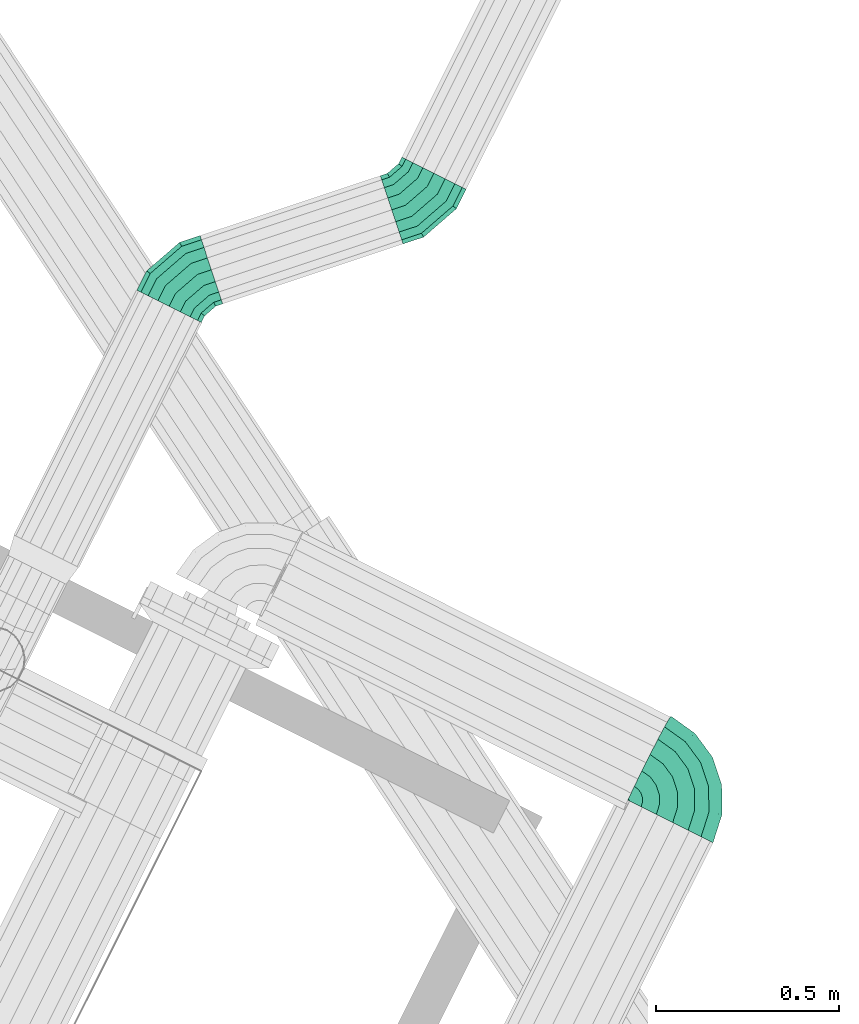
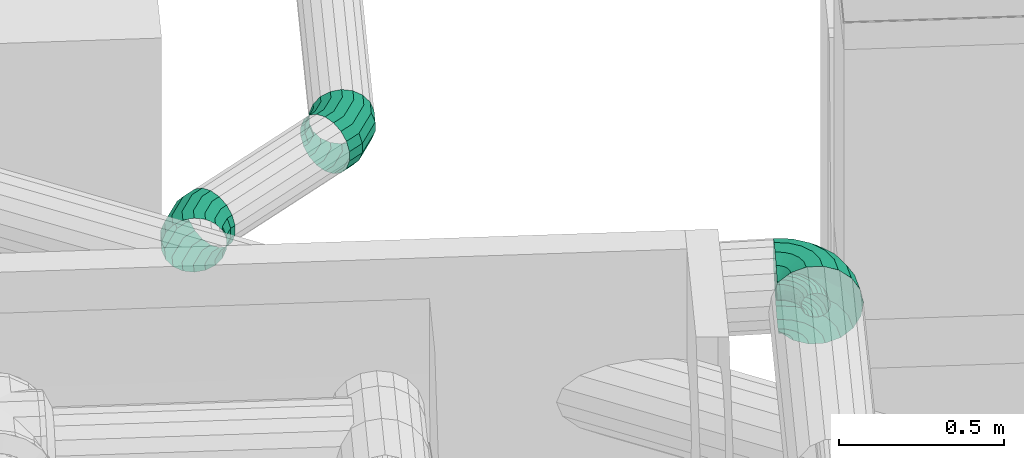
# One storey, part 162 of 206: 2 flow fittings, 1 flow segment.
"""IFC2X3 building model written with IfcOpenShell, lengths in metres."""

from ifc_helpers import new_model, si_unit, derived_unit, direction, frame, origin, place, context, subcontext, project, spatial, face_set, surface_model, source, transform, mapped, material, type_object, type_shapes, element, save


model = new_model("IFC2X3")

# Units and contexts
model_context = context("Model", 3, precision=5.2338327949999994e-05, world=origin(), true_north=direction((0.0, 1.0)))
body_context = subcontext(model_context, "Body", "Model", "MODEL_VIEW")
ifc_project = project(units=[si_unit("LENGTHUNIT", "METRE"), si_unit("AREAUNIT", "SQUARE_METRE"), si_unit("VOLUMEUNIT", "CUBIC_METRE"), si_unit("MASSUNIT", "GRAM", prefix="KILO"), si_unit("PLANEANGLEUNIT", "RADIAN"), derived_unit("THERMALTRANSMITTANCEUNIT", [(si_unit("MASSUNIT", "GRAM", prefix="KILO"), 1), (si_unit("THERMODYNAMICTEMPERATUREUNIT", "KELVIN"), -1), (si_unit("TIMEUNIT", "SECOND"), -3)])], contexts=[model_context])

# Site, building, storey
site_placement = place(None, frame((0.0, 0.0, 0.0), z_axis=(0.0, 0.0, 1.0), x_axis=(0.8939966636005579, -0.4480736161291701, 0.0)))
site = spatial("IfcSite", under=ifc_project, at=site_placement, Name="Default", CompositionType="ELEMENT")
building_placement = place(site_placement, origin())
building = spatial("IfcBuilding", under=site, at=building_placement, CompositionType="ELEMENT")
storey_placement = place(building_placement, origin())
storey = spatial("IfcBuildingStorey", under=building, at=storey_placement, Name="Erdgeschoss", CompositionType="ELEMENT", Elevation=0.0)

# Flow segment
ifc_material_1 = material(Name="IfcSurfaceStyle #9317")
distribution_element_type_1 = type_object("IfcDistributionElementType", Name="Rohrbogen 345626:Rohrbogen 345626", material=ifc_material_1)
shared_shape_1 = source(origin(), body_context, "Body", "SurfaceModel", [
    surface_model("IfcFaceBasedSurfaceModel", [(32.430387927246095, 10.439903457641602, 2.3520817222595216), (32.38144440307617, 10.447658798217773, 2.350637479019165), (32.42911126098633, 10.43735361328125, 2.367253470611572), (32.38099559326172, 10.44497756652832, 2.3658336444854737), (32.47453872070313, 10.417396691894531, 2.3533845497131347), (32.47251558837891, 10.415228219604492, 2.368534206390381), (32.50957844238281, 10.382343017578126, 2.3544184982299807), (32.50696232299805, 10.380767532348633, 2.369550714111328), (32.532074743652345, 10.338172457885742, 2.3550824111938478), (32.52907725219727, 10.337343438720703, 2.3702032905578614), (32.53982543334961, 10.289208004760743, 2.3553110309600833), (32.53669771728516, 10.289208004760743, 2.3704282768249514), (32.38060259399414, 10.4372594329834, 2.3791969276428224), (32.426332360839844, 10.430013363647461, 2.380546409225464), (32.46758565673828, 10.408984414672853, 2.381763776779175), (32.50032551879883, 10.376230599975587, 2.3827298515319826), (32.52134516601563, 10.334958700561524, 2.3833501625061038), (32.52858890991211, 10.289208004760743, 2.3835638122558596), (32.38030958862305, 10.425433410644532, 2.389115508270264), (32.42238609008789, 10.418766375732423, 2.390357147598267), (32.46034423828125, 10.39941639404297, 2.391477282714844), (32.49047030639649, 10.369279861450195, 2.392366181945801), (32.50981098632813, 10.331304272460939, 2.3929369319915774), (32.516475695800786, 10.289208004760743, 2.393133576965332), (32.417749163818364, 10.404969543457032, 2.3955026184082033), (32.38015378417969, 10.410927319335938, 2.394393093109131), (32.45166569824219, 10.387681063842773, 2.396503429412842), (32.478582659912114, 10.360752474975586, 2.3972977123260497), (32.49586532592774, 10.32682198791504, 2.3978075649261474), (32.501818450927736, 10.289208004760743, 2.3979832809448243), (32.38015378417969, 10.395489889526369, 2.394393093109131), (32.41298201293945, 10.390287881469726, 2.3953617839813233), (32.442596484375, 10.375192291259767, 2.396235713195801), (32.466099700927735, 10.351678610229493, 2.3969292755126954), (32.48118947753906, 10.322051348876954, 2.397374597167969), (32.48638916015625, 10.289208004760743, 2.3975279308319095), (32.408656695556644, 10.376491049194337, 2.3899520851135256), (32.38030958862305, 10.380983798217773, 2.389115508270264), (32.43422955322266, 10.363455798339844, 2.3907066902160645), (32.45452366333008, 10.34315238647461, 2.3913054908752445), (32.46755542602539, 10.317567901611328, 2.391690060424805), (32.472043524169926, 10.289208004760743, 2.391822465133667), (32.38060259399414, 10.369157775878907, 2.3791969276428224), (32.40529643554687, 10.365245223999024, 2.3799256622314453), (32.42757414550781, 10.353888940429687, 2.380583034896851), (32.445254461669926, 10.336201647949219, 2.3811048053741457), (32.456604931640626, 10.31391463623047, 2.381439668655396), (32.460516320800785, 10.289208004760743, 2.381555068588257), (32.403305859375, 10.357903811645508, 2.3664920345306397), (32.38099559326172, 10.36143847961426, 2.3658336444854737), (32.42343486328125, 10.347643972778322, 2.3670858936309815), (32.43940598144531, 10.331664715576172, 2.367557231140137), (32.4496611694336, 10.311528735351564, 2.3678598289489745), (32.45319583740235, 10.289208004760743, 2.3679641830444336), (32.38144440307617, 10.358758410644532, 2.350637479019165), (32.40292681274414, 10.355353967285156, 2.3512714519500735), (32.42230702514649, 10.345475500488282, 2.3518432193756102), (32.43768748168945, 10.33008923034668, 2.3522971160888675), (32.44756129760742, 10.31070087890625, 2.352588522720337), (32.45096341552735, 10.289208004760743, 2.352688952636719), (32.40420347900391, 10.357903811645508, 2.3360997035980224), (32.381893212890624, 10.36143847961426, 2.3354413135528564), (32.424330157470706, 10.347643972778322, 2.3366935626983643), (32.44030360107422, 10.331664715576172, 2.3371649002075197), (32.450558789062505, 10.311528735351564, 2.3374674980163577), (32.454091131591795, 10.289208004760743, 2.3375718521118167), (32.382286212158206, 10.369157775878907, 2.3220780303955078), (32.40698237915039, 10.365245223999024, 2.3228066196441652), (32.42926008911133, 10.353888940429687, 2.323464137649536), (32.44694040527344, 10.336201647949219, 2.323985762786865), (32.458290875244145, 10.31391463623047, 2.324320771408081), (32.4622022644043, 10.289208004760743, 2.3244361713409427), (32.410928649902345, 10.376491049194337, 2.3129958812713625), (32.3825792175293, 10.380983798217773, 2.312159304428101), (32.43650150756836, 10.363455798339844, 2.3137504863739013), (32.45679561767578, 10.34315238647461, 2.314349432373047), (32.46982505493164, 10.317567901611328, 2.3147338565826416), (32.47431547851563, 10.289208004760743, 2.3148664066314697), (32.415563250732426, 10.390287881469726, 2.3078505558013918), (32.38273502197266, 10.395489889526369, 2.3068817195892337), (32.44518004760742, 10.375192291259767, 2.3087244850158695), (32.4686809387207, 10.351678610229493, 2.309417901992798), (32.483770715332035, 10.322051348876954, 2.3098632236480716), (32.488970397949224, 10.289208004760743, 2.3100167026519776), (32.38273502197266, 10.410927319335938, 2.3068817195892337), (32.420332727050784, 10.404969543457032, 2.307991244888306), (32.45424926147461, 10.387681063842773, 2.3089920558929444), (32.481166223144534, 10.360752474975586, 2.3097863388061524), (32.498446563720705, 10.32682198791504, 2.310296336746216), (32.504402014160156, 10.289208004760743, 2.3104720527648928), (32.3825792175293, 10.425433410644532, 2.312159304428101), (32.42465804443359, 10.418766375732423, 2.3134010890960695), (32.46261619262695, 10.39941639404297, 2.314521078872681), (32.49273993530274, 10.369279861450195, 2.3154101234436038), (32.512080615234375, 10.331304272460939, 2.31598087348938), (32.518745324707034, 10.289208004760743, 2.316177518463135), (32.42801830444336, 10.430013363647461, 2.3234273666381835), (32.382286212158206, 10.4372594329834, 2.3220780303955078), (32.4692716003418, 10.408984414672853, 2.3246447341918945), (32.50201146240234, 10.376230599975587, 2.325610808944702), (32.52303110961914, 10.334958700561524, 2.3262311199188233), (32.530272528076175, 10.289208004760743, 2.326444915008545), (32.381893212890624, 10.44497756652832, 2.3354413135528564), (32.43000655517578, 10.43735361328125, 2.3368611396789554), (32.47341088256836, 10.415228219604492, 2.338141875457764), (32.507857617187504, 10.380767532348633, 2.3391583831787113), (32.52997487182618, 10.337343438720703, 2.339810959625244), (32.537595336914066, 10.289208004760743, 2.3400358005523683), (32.4612744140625, 10.535009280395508, 2.3529931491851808), (32.38144440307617, 10.547658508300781, 2.350637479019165), (32.45712815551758, 10.526723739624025, 2.402297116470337), (32.37998635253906, 10.538947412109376, 2.4000208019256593), (32.53329094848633, 10.49829873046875, 2.3551183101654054), (32.52671693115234, 10.491251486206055, 2.404350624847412), (32.590443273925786, 10.44112198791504, 2.3568048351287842), (32.581941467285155, 10.436001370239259, 2.4059801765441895), (32.6271387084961, 10.369074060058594, 2.3578876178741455), (32.617399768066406, 10.366382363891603, 2.40702647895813), (32.639782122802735, 10.289208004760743, 2.358260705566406), (32.62961762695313, 10.289208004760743, 2.4073870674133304), (32.378705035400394, 10.513864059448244, 2.4434476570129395), (32.448098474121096, 10.502868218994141, 2.445495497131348), (32.51069697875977, 10.47095853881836, 2.4473427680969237), (32.56037534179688, 10.42125692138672, 2.448808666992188), (32.59227339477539, 10.35863051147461, 2.4497498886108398), (32.603263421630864, 10.289208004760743, 2.4500742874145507), (32.37775393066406, 10.475433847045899, 2.4756802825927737), (32.435276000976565, 10.466319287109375, 2.4773778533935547), (32.48716818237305, 10.439867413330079, 2.4789091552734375), (32.52834938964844, 10.39866876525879, 2.4801241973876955), (32.55478731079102, 10.346755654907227, 2.4809043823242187), (32.56389838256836, 10.289208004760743, 2.4811732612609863), (32.420209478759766, 10.421484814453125, 2.4940986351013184), (32.37724931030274, 10.428291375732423, 2.4928309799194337), (32.45896525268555, 10.401729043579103, 2.4952424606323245), (32.48972151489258, 10.370959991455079, 2.4961499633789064), (32.50946682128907, 10.332187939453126, 2.4967327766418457), (32.51627105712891, 10.289208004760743, 2.496933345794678), (32.37724931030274, 10.378124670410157, 2.4928309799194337), (32.404712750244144, 10.373772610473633, 2.4936413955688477), (32.429490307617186, 10.361143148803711, 2.4943727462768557), (32.449151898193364, 10.341472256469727, 2.4949529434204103), (32.461776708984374, 10.316685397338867, 2.495325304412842), (32.46612528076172, 10.289208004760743, 2.4954537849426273), (32.37775393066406, 10.330983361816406, 2.4756802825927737), (32.39065779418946, 10.32893930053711, 2.4760610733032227), (32.4022989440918, 10.323004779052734, 2.476404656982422), (32.41153558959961, 10.313763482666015, 2.4766773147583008), (32.41746778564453, 10.302117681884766, 2.4768523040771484), (32.41951184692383, 10.289208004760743, 2.4769124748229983), (32.379739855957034, 10.292389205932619, 2.443478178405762), (32.378705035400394, 10.292553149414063, 2.4434476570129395), (32.38067003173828, 10.29191481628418, 2.4435057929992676), (32.38140952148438, 10.29117416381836, 2.4435275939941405), (32.381886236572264, 10.290241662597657, 2.4435415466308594), (32.38204901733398, 10.289208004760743, 2.4435464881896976), (32.37887711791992, 10.289208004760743, 2.4376564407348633), (32.37977008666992, 10.289208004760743, 2.437930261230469), (32.38401168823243, 10.289208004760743, 2.263618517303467), (32.384920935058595, 10.289208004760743, 2.2633978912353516), (32.38521626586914, 10.292389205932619, 2.2578576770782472), (32.38418377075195, 10.292553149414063, 2.257827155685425), (32.38614876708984, 10.29191481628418, 2.257885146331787), (32.38688825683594, 10.29117416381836, 2.2579069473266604), (32.38736264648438, 10.290241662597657, 2.2579210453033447), (32.38752775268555, 10.289208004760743, 2.257925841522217), (32.39803873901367, 10.32893930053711, 2.22597532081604), (32.38513487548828, 10.330983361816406, 2.225594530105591), (32.40967756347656, 10.323004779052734, 2.2263187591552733), (32.41891653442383, 10.313763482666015, 2.2265914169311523), (32.4248464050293, 10.302117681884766, 2.2267664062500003), (32.42689046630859, 10.289208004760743, 2.2268267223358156), (32.41310526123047, 10.373772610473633, 2.209254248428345), (32.38563949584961, 10.378124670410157, 2.2084438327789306), (32.437880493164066, 10.361143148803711, 2.209985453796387), (32.45754440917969, 10.341472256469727, 2.2105656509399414), (32.47016921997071, 10.316685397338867, 2.2109381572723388), (32.47451779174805, 10.289208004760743, 2.2110664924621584), (32.4286019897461, 10.421484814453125, 2.2097116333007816), (32.38563949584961, 10.428291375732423, 2.2084438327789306), (32.467355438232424, 10.401729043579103, 2.2108551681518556), (32.49811170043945, 10.370959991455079, 2.2117628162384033), (32.51785933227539, 10.332187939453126, 2.212345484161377), (32.52466356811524, 10.289208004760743, 2.212546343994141), (32.38513487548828, 10.475433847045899, 2.225594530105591), (32.442656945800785, 10.466319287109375, 2.2272919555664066), (32.494546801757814, 10.439867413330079, 2.2288231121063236), (32.53572800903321, 10.39866876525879, 2.230038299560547), (32.562168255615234, 10.346755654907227, 2.230818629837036), (32.57127932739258, 10.289208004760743, 2.231087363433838), (32.38418377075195, 10.513864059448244, 2.257827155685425), (32.4535748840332, 10.502868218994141, 2.2598748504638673), (32.51617571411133, 10.47095853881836, 2.2617221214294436), (32.56585407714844, 10.42125692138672, 2.2631880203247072), (32.5977498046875, 10.35863051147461, 2.2641292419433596), (32.60873983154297, 10.289208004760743, 2.2644536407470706), (32.46004193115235, 10.526723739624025, 2.303530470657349), (32.38290245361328, 10.538947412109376, 2.301254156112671), (32.52963070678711, 10.491251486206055, 2.305583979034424), (32.584857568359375, 10.436001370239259, 2.307213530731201), (32.62031354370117, 10.366382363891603, 2.3082599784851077), (32.632531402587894, 10.289208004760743, 2.308620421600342)], [face_set([[[0, 1, 2]], [[3, 2, 1]], [[4, 0, 2]], [[2, 5, 4]], [[6, 4, 5]], [[5, 7, 6]], [[8, 6, 7]], [[7, 9, 8]], [[10, 8, 9]], [[9, 11, 10]], [[2, 3, 12]], [[12, 13, 2]], [[5, 2, 13]], [[13, 14, 5]], [[7, 5, 15]], [[14, 15, 5]], [[9, 7, 16]], [[15, 16, 7]], [[11, 9, 17]], [[16, 17, 9]], [[13, 12, 18]], [[18, 19, 13]], [[14, 13, 19]], [[19, 20, 14]], [[15, 14, 20]], [[20, 21, 15]], [[16, 15, 21]], [[21, 22, 16]], [[17, 16, 22]], [[22, 23, 17]], [[19, 18, 24]], [[25, 24, 18]], [[20, 19, 26]], [[24, 26, 19]], [[21, 20, 26]], [[26, 27, 21]], [[22, 21, 28]], [[27, 28, 21]], [[23, 22, 29]], [[28, 29, 22]], [[24, 25, 30]], [[30, 31, 24]], [[26, 24, 32]], [[31, 32, 24]], [[27, 26, 33]], [[32, 33, 26]], [[28, 27, 34]], [[33, 34, 27]], [[29, 28, 34]], [[34, 35, 29]], [[31, 30, 36]], [[37, 36, 30]], [[32, 31, 36]], [[36, 38, 32]], [[33, 32, 39]], [[38, 39, 32]], [[34, 33, 40]], [[39, 40, 33]], [[35, 34, 41]], [[40, 41, 34]], [[36, 37, 42]], [[42, 43, 36]], [[38, 36, 43]], [[43, 44, 38]], [[39, 38, 44]], [[44, 45, 39]], [[40, 39, 45]], [[45, 46, 40]], [[41, 40, 47]], [[46, 47, 40]], [[43, 42, 48]], [[49, 48, 42]], [[44, 43, 50]], [[48, 50, 43]], [[45, 44, 51]], [[50, 51, 44]], [[46, 45, 52]], [[51, 52, 45]], [[47, 46, 52]], [[52, 53, 47]], [[48, 49, 54]], [[54, 55, 48]], [[50, 48, 55]], [[55, 56, 50]], [[51, 50, 56]], [[56, 57, 51]], [[52, 51, 58]], [[57, 58, 51]], [[53, 52, 58]], [[58, 59, 53]], [[55, 54, 60]], [[61, 60, 54]], [[56, 55, 62]], [[60, 62, 55]], [[57, 56, 63]], [[62, 63, 56]], [[58, 57, 64]], [[63, 64, 57]], [[59, 58, 65]], [[64, 65, 58]], [[60, 61, 66]], [[66, 67, 60]], [[62, 60, 67]], [[67, 68, 62]], [[63, 62, 68]], [[68, 69, 63]], [[64, 63, 69]], [[69, 70, 64]], [[65, 64, 71]], [[70, 71, 64]], [[67, 66, 72]], [[73, 72, 66]], [[68, 67, 74]], [[72, 74, 67]], [[69, 68, 75]], [[74, 75, 68]], [[70, 69, 75]], [[75, 76, 70]], [[71, 70, 77]], [[76, 77, 70]], [[72, 73, 78]], [[79, 78, 73]], [[74, 72, 80]], [[78, 80, 72]], [[75, 74, 80]], [[80, 81, 75]], [[76, 75, 81]], [[81, 82, 76]], [[77, 76, 82]], [[82, 83, 77]], [[78, 79, 84]], [[84, 85, 78]], [[80, 78, 85]], [[85, 86, 80]], [[81, 80, 86]], [[86, 87, 81]], [[82, 81, 87]], [[87, 88, 82]], [[83, 82, 89]], [[88, 89, 82]], [[85, 84, 90]], [[90, 91, 85]], [[86, 85, 91]], [[91, 92, 86]], [[87, 86, 93]], [[92, 93, 86]], [[88, 87, 94]], [[93, 94, 87]], [[89, 88, 95]], [[94, 95, 88]], [[91, 90, 96]], [[97, 96, 90]], [[92, 91, 98]], [[96, 98, 91]], [[93, 92, 99]], [[98, 99, 92]], [[94, 93, 100]], [[99, 100, 93]], [[95, 94, 101]], [[100, 101, 94]], [[96, 97, 102]], [[102, 103, 96]], [[98, 96, 103]], [[103, 104, 98]], [[99, 98, 104]], [[104, 105, 99]], [[100, 99, 105]], [[105, 106, 100]], [[101, 100, 106]], [[106, 107, 101]], [[103, 102, 0]], [[1, 0, 102]], [[104, 103, 4]], [[0, 4, 103]], [[105, 104, 6]], [[4, 6, 104]], [[106, 105, 8]], [[6, 8, 105]], [[107, 106, 10]], [[8, 10, 106]], [[108, 109, 110]], [[111, 110, 109]], [[112, 108, 110]], [[110, 113, 112]], [[114, 112, 115]], [[113, 115, 112]], [[116, 114, 117]], [[115, 117, 114]], [[118, 116, 119]], [[117, 119, 116]], [[110, 111, 120]], [[120, 121, 110]], [[113, 110, 122]], [[121, 122, 110]], [[115, 113, 122]], [[122, 123, 115]], [[117, 115, 123]], [[123, 124, 117]], [[119, 117, 124]], [[124, 125, 119]], [[121, 120, 126]], [[126, 127, 121]], [[122, 121, 128]], [[127, 128, 121]], [[123, 122, 129]], [[128, 129, 122]], [[124, 123, 130]], [[129, 130, 123]], [[125, 124, 131]], [[130, 131, 124]], [[127, 126, 132]], [[133, 132, 126]], [[128, 127, 134]], [[132, 134, 127]], [[129, 128, 135]], [[134, 135, 128]], [[130, 129, 136]], [[135, 136, 129]], [[131, 130, 137]], [[136, 137, 130]], [[132, 133, 138]], [[138, 139, 132]], [[134, 132, 139]], [[139, 140, 134]], [[135, 134, 140]], [[140, 141, 135]], [[136, 135, 142]], [[141, 142, 135]], [[137, 136, 142]], [[142, 143, 137]], [[139, 138, 144]], [[144, 145, 139]], [[140, 139, 146]], [[145, 146, 139]], [[141, 140, 147]], [[146, 147, 140]], [[142, 141, 148]], [[147, 148, 141]], [[143, 142, 148]], [[148, 149, 143]], [[145, 144, 150]], [[151, 150, 144]], [[146, 145, 150]], [[150, 152, 146]], [[147, 146, 153]], [[152, 153, 146]], [[148, 147, 154]], [[153, 154, 147]], [[149, 148, 154]], [[154, 155, 149]], [[156, 150, 157]], [[156, 157, 151]], [[150, 151, 157]], [[150, 156, 152]], [[153, 152, 156]], [[154, 153, 156]], [[155, 154, 156]], [[158, 159, 160]], [[161, 160, 159]], [[159, 158, 161]], [[160, 162, 158]], [[158, 162, 163]], [[164, 158, 163]], [[165, 158, 164]], [[160, 161, 166]], [[167, 166, 161]], [[162, 160, 168]], [[166, 168, 160]], [[163, 162, 168]], [[168, 169, 163]], [[164, 163, 169]], [[169, 170, 164]], [[165, 164, 171]], [[170, 171, 164]], [[166, 167, 172]], [[173, 172, 167]], [[168, 166, 172]], [[172, 174, 168]], [[169, 168, 175]], [[174, 175, 168]], [[170, 169, 175]], [[175, 176, 170]], [[171, 170, 176]], [[176, 177, 171]], [[172, 173, 178]], [[179, 178, 173]], [[174, 172, 180]], [[178, 180, 172]], [[175, 174, 181]], [[180, 181, 174]], [[176, 175, 181]], [[181, 182, 176]], [[177, 176, 183]], [[182, 183, 176]], [[178, 179, 184]], [[184, 185, 178]], [[180, 178, 185]], [[185, 186, 180]], [[181, 180, 186]], [[186, 187, 181]], [[182, 181, 187]], [[187, 188, 182]], [[183, 182, 189]], [[188, 189, 182]], [[185, 184, 190]], [[190, 191, 185]], [[186, 185, 191]], [[191, 192, 186]], [[187, 186, 192]], [[192, 193, 187]], [[188, 187, 193]], [[193, 194, 188]], [[189, 188, 195]], [[194, 195, 188]], [[191, 190, 196]], [[197, 196, 190]], [[192, 191, 198]], [[196, 198, 191]], [[193, 192, 199]], [[198, 199, 192]], [[194, 193, 200]], [[199, 200, 193]], [[195, 194, 201]], [[200, 201, 194]], [[196, 197, 109]], [[109, 108, 196]], [[198, 196, 112]], [[108, 112, 196]], [[199, 198, 112]], [[112, 114, 199]], [[200, 199, 114]], [[114, 116, 200]], [[201, 200, 116]], [[116, 118, 201]]])]),
])
type_shapes(distribution_element_type_1, [shared_shape_1])
flow_segment_placement = place(storey_placement, origin())
element("IfcFlowSegment", 1, at=flow_segment_placement, inside=storey, type_object=distribution_element_type_1, material=ifc_material_1, Name="Rohrbogen", ObjectType="Rohrbogen", context=body_context, shape_type="MappedRepresentation", body=[
    mapped(shared_shape_1, transform((0.0, 0.0, 0.0), scale=1.0)),
])

# Flow fittings
ifc_material_2 = material(Name="IfcSurfaceStyle #251447")
distribution_element_type_2 = type_object("IfcDistributionElementType", Name="Segmentbogen 3 teilig 618862:Segmentbogen 3 teilig 618862", material=ifc_material_2)
shared_shape_2 = source(origin(), body_context, "Body", "SurfaceModel", [
    surface_model("IfcFaceBasedSurfaceModel", [(31.07650925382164, 11.444755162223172, 2.1000000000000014), (31.052324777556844, 11.468939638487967, 2.1060307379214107), (31.075644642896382, 11.492259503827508, 2.1060307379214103), (31.104639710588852, 11.472885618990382, 2.1), (31.03105730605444, 11.490207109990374, 2.123395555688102), (31.050146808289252, 11.509296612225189, 2.1233955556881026), (31.01527201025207, 11.505992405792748, 2.1499999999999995), (31.03122162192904, 11.521942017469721, 2.1500000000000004), (31.006872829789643, 11.51439158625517, 2.182635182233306), (31.021151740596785, 11.528670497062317, 2.182635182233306), (31.006872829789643, 11.514391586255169, 2.2173648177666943), (31.021151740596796, 11.528670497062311, 2.2173648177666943), (31.015272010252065, 11.505992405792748, 2.2500000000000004), (31.031221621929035, 11.521942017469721, 2.2500000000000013), (31.031057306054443, 11.49020710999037, 2.2766044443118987), (31.050146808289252, 11.509296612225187, 2.2766044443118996), (31.052324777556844, 11.468939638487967, 2.293969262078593), (31.075644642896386, 11.492259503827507, 2.2939692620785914), (31.07650925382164, 11.44475516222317, 2.300000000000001), (31.104639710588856, 11.472885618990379, 2.299999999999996), (31.100693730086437, 11.420570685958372, 2.29396926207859), (31.133634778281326, 11.45351173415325, 2.29396926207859), (31.121961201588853, 11.399303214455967, 2.2766044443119), (31.159132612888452, 11.436474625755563, 2.2766044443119), (31.13774649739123, 11.383517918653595, 2.2500000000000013), (31.178057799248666, 11.423829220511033, 2.250000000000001), (31.146145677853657, 11.37511873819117, 2.2173648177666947), (31.188127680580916, 11.41710074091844, 2.217364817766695), (31.146145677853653, 11.375118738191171, 2.1826351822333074), (31.188127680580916, 11.41710074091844, 2.1826351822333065), (31.137746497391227, 11.383517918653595, 2.1500000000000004), (31.178057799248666, 11.423829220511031, 2.1499999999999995), (31.12196120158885, 11.399303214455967, 2.123395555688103), (31.159132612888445, 11.436474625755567, 2.123395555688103), (31.100693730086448, 11.420570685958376, 2.106030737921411), (31.133634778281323, 11.453511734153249, 2.1060307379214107), (31.100885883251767, 11.553197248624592, 2.1060307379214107), (31.135087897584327, 11.546394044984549, 2.1000000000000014), (31.07080913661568, 11.559179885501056, 2.123395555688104), (31.048485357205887, 11.563620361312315, 2.1500000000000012), (31.036607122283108, 11.565983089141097, 2.182635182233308), (31.036607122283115, 11.565983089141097, 2.217364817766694), (31.048485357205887, 11.563620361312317, 2.250000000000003), (31.07080913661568, 11.559179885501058, 2.276604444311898), (31.100885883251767, 11.55319724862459, 2.2939692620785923), (31.135087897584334, 11.546394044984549, 2.300000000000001), (31.169289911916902, 11.53959084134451, 2.2939692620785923), (31.199366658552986, 11.533608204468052, 2.2766044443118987), (31.221690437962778, 11.52916772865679, 2.2499999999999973), (31.233568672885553, 11.526805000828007, 2.2173648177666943), (31.233568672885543, 11.526805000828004, 2.182635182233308), (31.221690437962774, 11.529167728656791, 2.1500000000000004), (31.199366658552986, 11.533608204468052, 2.1233955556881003), (31.169289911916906, 11.539590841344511, 2.1060307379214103), (31.10088588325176, 11.586176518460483, 2.106030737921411), (31.135087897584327, 11.586176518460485, 2.1000000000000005), (31.07080913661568, 11.586176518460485, 2.1233955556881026), (31.048485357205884, 11.586176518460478, 2.150000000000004), (31.036607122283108, 11.586176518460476, 2.18263518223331), (31.036607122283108, 11.586176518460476, 2.217364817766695), (31.048485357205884, 11.586176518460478, 2.249999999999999), (31.070809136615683, 11.586176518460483, 2.276604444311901), (31.10088588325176, 11.586176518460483, 2.2939692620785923), (31.135087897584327, 11.586176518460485, 2.3000000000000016), (31.1692899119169, 11.586176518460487, 2.293969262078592), (31.19936665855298, 11.586176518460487, 2.2766044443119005), (31.22169043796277, 11.586176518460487, 2.250000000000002), (31.233568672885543, 11.586176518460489, 2.217364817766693), (31.233568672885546, 11.586176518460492, 2.182635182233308), (31.221690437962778, 11.586176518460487, 2.149999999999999), (31.199366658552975, 11.586176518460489, 2.1233955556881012), (31.1692899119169, 11.586176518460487, 2.1060307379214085)], [face_set([[[0, 1, 2, 3]], [[1, 4, 5, 2]], [[4, 6, 7, 5]], [[6, 8, 9, 7]], [[8, 10, 11, 9]], [[10, 12, 13, 11]], [[12, 14, 15, 13]], [[14, 16, 17, 15]], [[16, 18, 19, 17]], [[18, 20, 21, 19]], [[20, 22, 23, 21]], [[22, 24, 25, 23]], [[24, 26, 27, 25]], [[26, 28, 29, 27]], [[28, 30, 31, 29]], [[30, 32, 33, 31]], [[32, 34, 35, 33]], [[34, 0, 3, 35]], [[3, 2, 36, 37]], [[2, 5, 38, 36]], [[5, 7, 39, 38]], [[7, 9, 40, 39]], [[9, 11, 41, 40]], [[11, 13, 42, 41]], [[13, 15, 43, 42]], [[15, 17, 44, 43]], [[17, 19, 45, 44]], [[19, 21, 46, 45]], [[21, 23, 47, 46]], [[23, 25, 48, 47]], [[25, 27, 49, 48]], [[27, 29, 50, 49]], [[29, 31, 51, 50]], [[31, 33, 52, 51]], [[33, 35, 53, 52]], [[35, 3, 37, 53]], [[37, 36, 54, 55]], [[36, 38, 56, 54]], [[38, 39, 57, 56]], [[39, 40, 58, 57]], [[40, 41, 59, 58]], [[41, 42, 60, 59]], [[42, 43, 61, 60]], [[43, 44, 62, 61]], [[44, 45, 63, 62]], [[45, 46, 64, 63]], [[46, 47, 65, 64]], [[47, 48, 66, 65]], [[48, 49, 67, 66]], [[49, 50, 68, 67]], [[50, 51, 69, 68]], [[51, 52, 70, 69]], [[52, 53, 71, 70]], [[53, 37, 55, 71]]])]),
])
type_shapes(distribution_element_type_2, [shared_shape_2])
flow_fitting_1_placement = place(storey_placement, origin())
element("IfcFlowFitting", 2, at=flow_fitting_1_placement, inside=storey, type_object=distribution_element_type_2, material=ifc_material_2, Name="Segmentbogen 3 teilig", ObjectType="Segmentbogen 3 teilig", context=body_context, shape_type="MappedRepresentation", body=[
    mapped(shared_shape_2, transform((0.0, 0.0, 0.0), scale=1.0)),
])
distribution_element_type_3 = type_object("IfcDistributionElementType", Name="Segmentbogen 3 teilig 619455:Segmentbogen 3 teilig 619455", material=ifc_material_2)
shared_shape_3 = source(origin(), body_context, "Body", "SurfaceModel", [
    surface_model("IfcFaceBasedSurfaceModel", [(30.649999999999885, 10.93540319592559, 2.299999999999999), (30.68420201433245, 10.93540319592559, 2.293969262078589), (30.68420201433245, 10.968382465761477, 2.2939692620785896), (30.649999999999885, 10.975185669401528, 2.3000000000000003), (30.714278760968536, 10.93540319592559, 2.276604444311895), (30.714278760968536, 10.962399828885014, 2.276604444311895), (30.73660254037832, 10.935403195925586, 2.249999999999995), (30.73660254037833, 10.957959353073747, 2.2499999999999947), (30.748480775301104, 10.935403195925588, 2.2173648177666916), (30.748480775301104, 10.955596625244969, 2.2173648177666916), (30.7484807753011, 10.935403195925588, 2.1826351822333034), (30.7484807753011, 10.955596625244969, 2.1826351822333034), (30.73660254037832, 10.935403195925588, 2.15), (30.73660254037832, 10.957959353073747, 2.149999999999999), (30.714278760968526, 10.93540319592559, 2.123395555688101), (30.714278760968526, 10.962399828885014, 2.1233955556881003), (30.684202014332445, 10.93540319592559, 2.1060307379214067), (30.684202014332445, 10.968382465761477, 2.1060307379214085), (30.649999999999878, 10.93540319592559, 2.099999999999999), (30.649999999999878, 10.975185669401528, 2.100000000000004), (30.615797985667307, 10.93540319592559, 2.1060307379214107), (30.615797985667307, 10.981988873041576, 2.1060307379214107), (30.585721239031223, 10.935403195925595, 2.123395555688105), (30.585721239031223, 10.987971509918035, 2.123395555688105), (30.563397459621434, 10.935403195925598, 2.1500000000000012), (30.56339745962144, 10.992411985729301, 2.1500000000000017), (30.55151922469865, 10.935403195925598, 2.182635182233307), (30.551519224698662, 10.994774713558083, 2.1826351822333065), (30.55151922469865, 10.9354031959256, 2.2173648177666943), (30.551519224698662, 10.994774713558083, 2.217364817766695), (30.563397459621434, 10.935403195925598, 2.2499999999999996), (30.563397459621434, 10.992411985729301, 2.25), (30.585721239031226, 10.935403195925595, 2.276604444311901), (30.585721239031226, 10.987971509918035, 2.276604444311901), (30.615797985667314, 10.935403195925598, 2.29396926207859), (30.615797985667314, 10.981988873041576, 2.293969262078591), (30.709443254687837, 11.029320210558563, 2.293969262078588), (30.68044818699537, 11.048694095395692, 2.2999999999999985), (30.734941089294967, 11.01228310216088, 2.276604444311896), (30.75386627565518, 10.99963769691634, 2.2499999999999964), (30.763936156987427, 10.992909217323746, 2.217364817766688), (30.763936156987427, 10.992909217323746, 2.182635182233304), (30.75386627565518, 10.999637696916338, 2.1499999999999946), (30.734941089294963, 11.01228310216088, 2.123395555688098), (30.709443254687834, 11.029320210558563, 2.106030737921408), (30.680448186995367, 11.048694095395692, 2.0999999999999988), (30.6514531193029, 11.068067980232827, 2.106030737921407), (30.62595528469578, 11.085105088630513, 2.1233955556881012), (30.607030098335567, 11.09775049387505, 2.150000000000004), (30.596960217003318, 11.104478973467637, 2.182635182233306), (30.596960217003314, 11.104478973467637, 2.217364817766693), (30.607030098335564, 11.09775049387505, 2.2500000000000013), (30.625955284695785, 11.085105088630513, 2.2766044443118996), (30.65145311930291, 11.068067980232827, 2.293969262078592), (30.73276312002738, 11.0526400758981, 2.2939692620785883), (30.708578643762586, 11.076824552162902, 2.299999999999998), (30.75403059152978, 11.031372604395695, 2.2766044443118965), (30.769815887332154, 11.015587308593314, 2.2499999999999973), (30.778215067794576, 11.007188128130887, 2.217364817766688), (30.778215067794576, 11.007188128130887, 2.182635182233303), (30.769815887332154, 11.015587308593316, 2.1499999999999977), (30.754030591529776, 11.031372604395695, 2.1233955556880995), (30.732763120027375, 11.0526400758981, 2.106030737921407), (30.708578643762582, 11.0768245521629, 2.099999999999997), (30.68439416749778, 11.101009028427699, 2.1060307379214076), (30.663126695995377, 11.122276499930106, 2.123395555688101), (30.647341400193, 11.13806179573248, 2.1500000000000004), (30.63894221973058, 11.146460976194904, 2.182635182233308), (30.63894221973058, 11.146460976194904, 2.217364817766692), (30.647341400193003, 11.138061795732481, 2.2500000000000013), (30.663126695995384, 11.122276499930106, 2.276604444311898), (30.684394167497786, 11.101009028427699, 2.2939692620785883)], [face_set([[[0, 1, 2, 3]], [[1, 4, 5, 2]], [[4, 6, 7, 5]], [[6, 8, 9, 7]], [[8, 10, 11, 9]], [[10, 12, 13, 11]], [[12, 14, 15, 13]], [[14, 16, 17, 15]], [[16, 18, 19, 17]], [[18, 20, 21, 19]], [[20, 22, 23, 21]], [[22, 24, 25, 23]], [[24, 26, 27, 25]], [[26, 28, 29, 27]], [[28, 30, 31, 29]], [[30, 32, 33, 31]], [[32, 34, 35, 33]], [[34, 0, 3, 35]], [[3, 2, 36, 37]], [[2, 5, 38, 36]], [[5, 7, 39, 38]], [[7, 9, 40, 39]], [[9, 11, 41, 40]], [[11, 13, 42, 41]], [[13, 15, 43, 42]], [[15, 17, 44, 43]], [[17, 19, 45, 44]], [[19, 21, 46, 45]], [[21, 23, 47, 46]], [[23, 25, 48, 47]], [[25, 27, 49, 48]], [[27, 29, 50, 49]], [[29, 31, 51, 50]], [[31, 33, 52, 51]], [[33, 35, 53, 52]], [[35, 3, 37, 53]], [[37, 36, 54, 55]], [[36, 38, 56, 54]], [[38, 39, 57, 56]], [[39, 40, 58, 57]], [[40, 41, 59, 58]], [[41, 42, 60, 59]], [[42, 43, 61, 60]], [[43, 44, 62, 61]], [[44, 45, 63, 62]], [[45, 46, 64, 63]], [[46, 47, 65, 64]], [[47, 48, 66, 65]], [[48, 49, 67, 66]], [[49, 50, 68, 67]], [[50, 51, 69, 68]], [[51, 52, 70, 69]], [[52, 53, 71, 70]], [[53, 37, 55, 71]]])]),
])
type_shapes(distribution_element_type_3, [shared_shape_3])
flow_fitting_2_placement = place(storey_placement, origin())
element("IfcFlowFitting", 3, at=flow_fitting_2_placement, inside=storey, type_object=distribution_element_type_3, material=ifc_material_2, Name="Segmentbogen 3 teilig", ObjectType="Segmentbogen 3 teilig", context=body_context, shape_type="MappedRepresentation", body=[
    mapped(shared_shape_3, transform((0.0, 0.0, 0.0), scale=1.0)),
])

save(model, "model.ifc")
